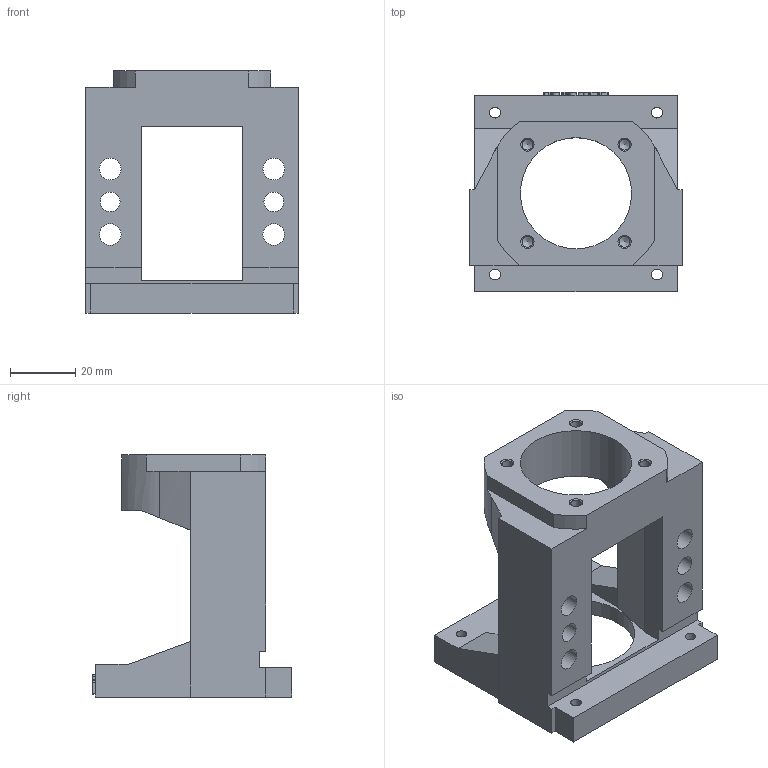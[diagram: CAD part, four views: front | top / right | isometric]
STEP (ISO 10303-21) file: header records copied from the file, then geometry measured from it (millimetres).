
FILE_DESCRIPTION(/* description */ (''),/* implementation_level */ '2;1');
FILE_NAME(/* name */ 'M60DP-FK10-A.stp',/* time_stamp */ '2016-10-27T09:56:32+08:00',/* author */ (''),/* organization */ (''),/* preprocessor_version */ 'ST-DEVELOPER v15',/* originating_system */ 'SIEMENS PLM Software NX 8.5',/* authorisation */ '');
FILE_SCHEMA (('CONFIG_CONTROL_DESIGN'));
Length unit declared in the file: millimetre
Products named in the file (1): MBA10-DP
Bounding box: 65 x 61 x 74 mm (x, y, z)
Volume: 78372.7 mm3; surface area: 27221.6 mm2
Topology: 1 solids, 1 shells, 188 faces, 506 edges, 336 vertices
Faces by surface type: plane 106, extrusion 41, cylinder 29, cone 12
Full cylindrical faces by diameter (mm): 3.3 x8, 6 x2, 6.6 x6, 11 x4, 34 x1, 36 x1, 50 x1
Entity records: 6214 total; most frequent: CARTESIAN_POINT 1901, ORIENTED_EDGE 910, DIRECTION 672, EDGE_CURVE 455, VERTEX_POINT 324, EDGE_LOOP 265, VECTOR 244, B_SPLINE_CURVE_WITH_KNOTS 223
